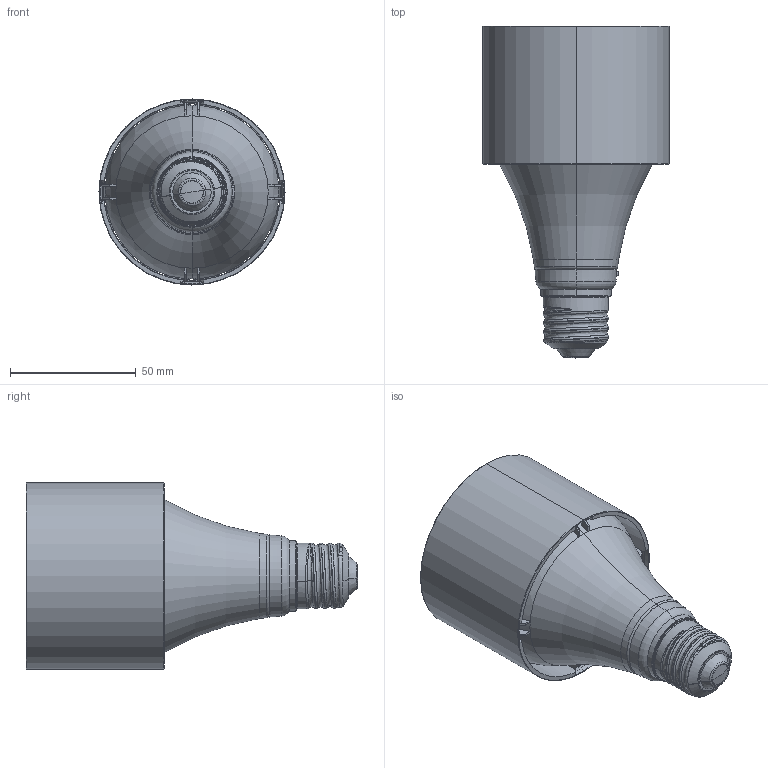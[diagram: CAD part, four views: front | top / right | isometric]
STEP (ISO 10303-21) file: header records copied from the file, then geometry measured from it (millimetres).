
FILE_DESCRIPTION(('FreeCAD Model'),'2;1');
FILE_NAME('Open CASCADE Shape Model','2024-08-30T10:06:34',( 'Lukas Balthasar Pank'),('Astera LED Technology GmbH'), 'Open CASCADE STEP processor 7.6','FreeCAD','Unknown');
FILE_SCHEMA(('AUTOMOTIVE_DESIGN { 1 0 10303 214 1 1 1 1 }'));
Length unit declared in the file: millimetre
Products named in the file (17): FP7+FP7-LRF+FP7-LSN_LunaBulb+LunaReflector+LunaSnoot_3D-STEP; LunaBulb; Lamp cup-L; inner diffuser holder; release button; spring; LunaBulb_InnerDome; LunaBulb_E27; FP7-LRF+FP7-LSN; LunaReflector; Reflector White Look; reflector cup-; LunaSnoot
Assembly tree (18 placements, depth 4):
  FP7+FP7-LRF+FP7-LSN_LunaBulb+LunaReflector+LunaSnoot_3D-STEP
    LunaBulb
      Lamp cup-L
      inner diffuser holder
      release button
      spring
        spring
        spring
      spring
        spring
        spring
    LunaBulb_InnerDome
    LunaBulb_E27
    FP7-LRF+FP7-LSN
      LunaReflector
        Reflector White Look
        reflector cup-
      LunaSnoot
      LunaReflector
Bounding box: 74 x 132 x 74 mm (x, y, z)
Volume: 53879.3 mm3; surface area: 83068.6 mm2
Topology: 9 solids, 13 shells, 5185 faces, 14113 edges, 9330 vertices
Faces by surface type: bspline 2573, plane 1451, cylinder 899, cone 124, torus 96, sphere 34, revolution 8
Entity records: 222136 total; most frequent: CARTESIAN_POINT 113687, ORIENTED_EDGE 28190, EDGE_CURVE 14097, DIRECTION 12676, VERTEX_POINT 9322, B_SPLINE_CURVE_WITH_KNOTS 8853, FACE_BOUND 5575, EDGE_LOOP 5575
